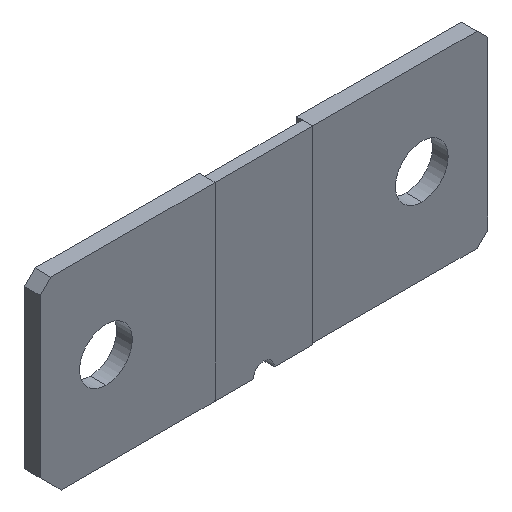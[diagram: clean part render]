
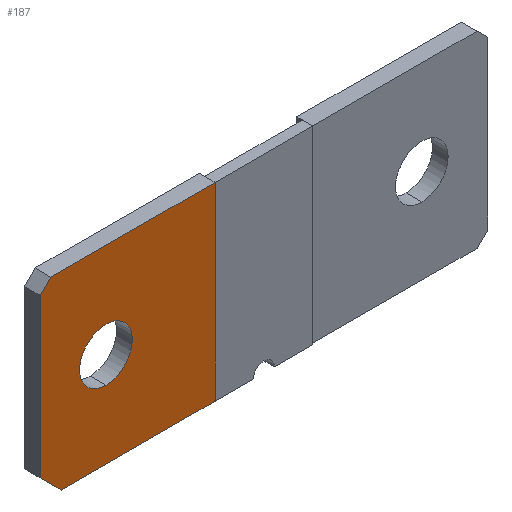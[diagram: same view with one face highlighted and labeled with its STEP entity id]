
A CAD part, isometric view. The second image highlights one B-rep face of the part: STEP entity #187.
In plain terms, the highlighted planar face has unit normal (0, -1, 0).
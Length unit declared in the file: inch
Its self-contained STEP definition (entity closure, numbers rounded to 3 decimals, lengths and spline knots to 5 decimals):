
#1 = VERTEX_POINT ( 'NONE', #943 ) ;
#16 = ORIENTED_EDGE ( 'NONE', *, *, #450, .F. ) ;
#47 = CARTESIAN_POINT ( 'NONE',  ( 0.01742, 0., 0.21898 ) ) ;
#60 = LINE ( 'NONE', #309, #1010 ) ;
#74 = CARTESIAN_POINT ( 'NONE',  ( 0.83342, 0., 0.73048 ) ) ;
#93 = CARTESIAN_POINT ( 'NONE',  ( 0.01742, 0., 0.02198 ) ) ;
#104 = VERTEX_POINT ( 'NONE', #1019 ) ;
#108 = VECTOR ( 'NONE', #413, 39.37008 ) ;
#120 = FACE_BOUND ( 'NONE', #606, .T. ) ;
#124 = CIRCLE ( 'NONE', #862, 0.197 ) ;
#132 = ORIENTED_EDGE ( 'NONE', *, *, #537, .F. ) ;
#149 = VERTEX_POINT ( 'NONE', #511 ) ;
#172 = EDGE_CURVE ( 'NONE', #869, #903, #359, .T. ) ;
#179 = VECTOR ( 'NONE', #747, 39.37008 ) ;
#181 = CARTESIAN_POINT ( 'NONE',  ( -0.31758, 0., -0.68652 ) ) ;
#187 = ADVANCED_FACE ( 'NONE', ( #120, #950 ), #955, .F. ) ;
#200 = CARTESIAN_POINT ( 'NONE',  ( 0., 0., 0. ) ) ;
#215 = ORIENTED_EDGE ( 'NONE', *, *, #172, .F. ) ;
#220 = VERTEX_POINT ( 'NONE', #720 ) ;
#255 = LINE ( 'NONE', #181, #432 ) ;
#263 = CARTESIAN_POINT ( 'NONE',  ( 0.01742, 0., 0.02198 ) ) ;
#298 = VERTEX_POINT ( 'NONE', #47 ) ;
#309 = CARTESIAN_POINT ( 'NONE',  ( -0.47458, 0., -0.52952 ) ) ;
#319 = EDGE_LOOP ( 'NONE', ( #549, #215, #540, #875, #132, #16 ) ) ;
#359 = LINE ( 'NONE', #867, #790 ) ;
#370 = AXIS2_PLACEMENT_3D ( 'NONE', #263, #425, #499 ) ;
#386 = LINE ( 'NONE', #911, #465 ) ;
#404 = DIRECTION ( 'NONE',  ( -1., 0., 0. ) ) ;
#411 = ORIENTED_EDGE ( 'NONE', *, *, #1011, .T. ) ;
#413 = DIRECTION ( 'NONE',  ( 0.707, 0., 0.707 ) ) ;
#414 = DIRECTION ( 'NONE',  ( -0.707, 0., 0.707 ) ) ;
#416 = CARTESIAN_POINT ( 'NONE',  ( -0.47458, 0., 0.65148 ) ) ;
#425 = DIRECTION ( 'NONE',  ( 0., 1., 0. ) ) ;
#432 = VECTOR ( 'NONE', #414, 39.37008 ) ;
#450 = EDGE_CURVE ( 'NONE', #629, #220, #386, .T. ) ;
#464 = CARTESIAN_POINT ( 'NONE',  ( -0.39558, 0., 0.73048 ) ) ;
#465 = VECTOR ( 'NONE', #404, 39.37008 ) ;
#484 = LINE ( 'NONE', #997, #179 ) ;
#494 = LINE ( 'NONE', #416, #108 ) ;
#499 = DIRECTION ( 'NONE',  ( 0., 0., 1. ) ) ;
#502 = CARTESIAN_POINT ( 'NONE',  ( 0.83342, 0., -0.68652 ) ) ;
#511 = CARTESIAN_POINT ( 'NONE',  ( 0.01742, 0., -0.17502 ) ) ;
#534 = EDGE_CURVE ( 'NONE', #903, #629, #484, .T. ) ;
#537 = EDGE_CURVE ( 'NONE', #220, #104, #255, .T. ) ;
#540 = ORIENTED_EDGE ( 'NONE', *, *, #965, .F. ) ;
#549 = ORIENTED_EDGE ( 'NONE', *, *, #534, .F. ) ;
#572 = EDGE_CURVE ( 'NONE', #149, #298, #124, .T. ) ;
#584 = DIRECTION ( 'NONE',  ( 0., 0., 1. ) ) ;
#606 = EDGE_LOOP ( 'NONE', ( #411, #1044 ) ) ;
#629 = VERTEX_POINT ( 'NONE', #502 ) ;
#631 = DIRECTION ( 'NONE',  ( 0., 0., 1. ) ) ;
#658 = AXIS2_PLACEMENT_3D ( 'NONE', #200, #1037, #861 ) ;
#696 = DIRECTION ( 'NONE',  ( 1., 0., 0. ) ) ;
#720 = CARTESIAN_POINT ( 'NONE',  ( -0.31758, 0., -0.68652 ) ) ;
#747 = DIRECTION ( 'NONE',  ( 0., 0., -1. ) ) ;
#790 = VECTOR ( 'NONE', #696, 39.37008 ) ;
#845 = EDGE_CURVE ( 'NONE', #104, #1, #60, .T. ) ;
#848 = CIRCLE ( 'NONE', #370, 0.197 ) ;
#861 = DIRECTION ( 'NONE',  ( 0., 0., 1. ) ) ;
#862 = AXIS2_PLACEMENT_3D ( 'NONE', #93, #1008, #584 ) ;
#867 = CARTESIAN_POINT ( 'NONE',  ( -0.39558, 0., 0.73048 ) ) ;
#869 = VERTEX_POINT ( 'NONE', #464 ) ;
#875 = ORIENTED_EDGE ( 'NONE', *, *, #845, .F. ) ;
#903 = VERTEX_POINT ( 'NONE', #74 ) ;
#911 = CARTESIAN_POINT ( 'NONE',  ( -0.31758, 0., -0.68652 ) ) ;
#943 = CARTESIAN_POINT ( 'NONE',  ( -0.47458, 0., 0.65148 ) ) ;
#950 = FACE_OUTER_BOUND ( 'NONE', #319, .T. ) ;
#955 = PLANE ( 'NONE',  #658 ) ;
#965 = EDGE_CURVE ( 'NONE', #1, #869, #494, .T. ) ;
#997 = CARTESIAN_POINT ( 'NONE',  ( 0.83342, 0., -0.68652 ) ) ;
#1008 = DIRECTION ( 'NONE',  ( 0., 1., 0. ) ) ;
#1010 = VECTOR ( 'NONE', #631, 39.37008 ) ;
#1011 = EDGE_CURVE ( 'NONE', #298, #149, #848, .T. ) ;
#1019 = CARTESIAN_POINT ( 'NONE',  ( -0.47458, 0., -0.52952 ) ) ;
#1037 = DIRECTION ( 'NONE',  ( 0., 1., 0. ) ) ;
#1044 = ORIENTED_EDGE ( 'NONE', *, *, #572, .T. ) ;
